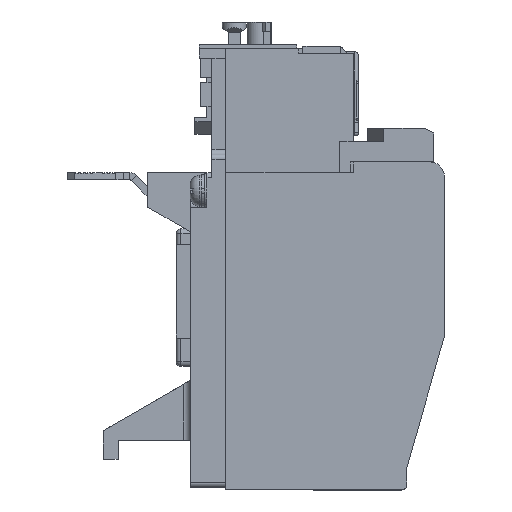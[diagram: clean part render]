
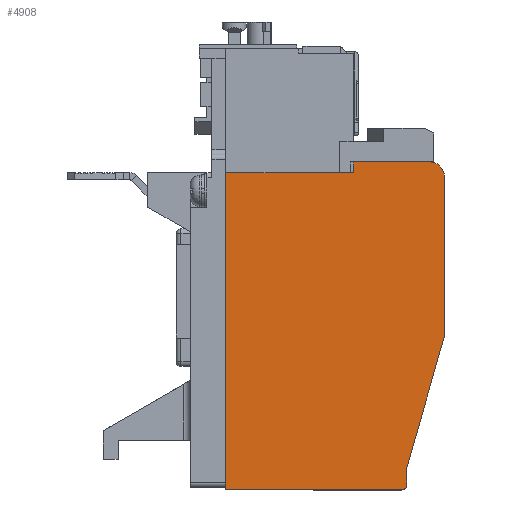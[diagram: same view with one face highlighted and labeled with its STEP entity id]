
A CAD part, left-side view. The second image highlights one B-rep face of the part: STEP entity #4908.
In plain terms, the highlighted planar face has unit normal (-1, 0, 0).
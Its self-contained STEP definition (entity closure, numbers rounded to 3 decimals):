
#41 = LINE ( 'NONE', #30707, #10060 ) ;
#351 = ORIENTED_EDGE ( 'NONE', *, *, #18182, .F. ) ;
#1346 = ORIENTED_EDGE ( 'NONE', *, *, #27717, .T. ) ;
#1465 = CARTESIAN_POINT ( 'NONE',  ( -27., -45.3, 65. ) ) ;
#2627 = CIRCLE ( 'NONE', #42251, 3. ) ;
#3472 = ORIENTED_EDGE ( 'NONE', *, *, #28368, .F. ) ;
#3630 = CARTESIAN_POINT ( 'NONE',  ( -27., -42.3, 65. ) ) ;
#4373 = CARTESIAN_POINT ( 'NONE',  ( -27., -45.3, 65. ) ) ;
#4800 = CARTESIAN_POINT ( 'NONE',  ( -27., -26.5, 65.8 ) ) ;
#4908 = ADVANCED_FACE ( 'NONE', ( #10611 ), #33754, .F. ) ;
#6282 = ORIENTED_EDGE ( 'NONE', *, *, #34430, .F. ) ;
#6656 = ORIENTED_EDGE ( 'NONE', *, *, #24674, .F. ) ;
#6831 = VERTEX_POINT ( 'NONE', #39699 ) ;
#7025 = DIRECTION ( 'NONE',  ( 0., 0., -1. ) ) ;
#7265 = AXIS2_PLACEMENT_3D ( 'NONE', #12891, #36513, #16312 ) ;
#7699 = LINE ( 'NONE', #12957, #24579 ) ;
#8130 = EDGE_CURVE ( 'NONE', #25490, #26749, #15121, .T. ) ;
#8542 = DIRECTION ( 'NONE',  ( 0., -1., 0. ) ) ;
#8628 = VERTEX_POINT ( 'NONE', #39769 ) ;
#9838 = VECTOR ( 'NONE', #42392, 1000. ) ;
#10060 = VECTOR ( 'NONE', #10480, 1000. ) ;
#10120 = CARTESIAN_POINT ( 'NONE',  ( -27., -42.3, 65. ) ) ;
#10480 = DIRECTION ( 'NONE',  ( 0., 1., 0. ) ) ;
#10611 = FACE_OUTER_BOUND ( 'NONE', #34814, .T. ) ;
#12891 = CARTESIAN_POINT ( 'NONE',  ( -27., -36.5, 1. ) ) ;
#12957 = CARTESIAN_POINT ( 'NONE',  ( -27., -37.5, 4.5 ) ) ;
#13033 = LINE ( 'NONE', #28975, #9838 ) ;
#13541 = DIRECTION ( 'NONE',  ( 0., 0., -1. ) ) ;
#14378 = CARTESIAN_POINT ( 'NONE',  ( -27., 0., 65.8 ) ) ;
#14779 = VECTOR ( 'NONE', #8542, 1000. ) ;
#15121 = LINE ( 'NONE', #16840, #38841 ) ;
#15329 = ORIENTED_EDGE ( 'NONE', *, *, #8130, .T. ) ;
#15343 = ORIENTED_EDGE ( 'NONE', *, *, #30721, .F. ) ;
#16005 = CARTESIAN_POINT ( 'NONE',  ( -27., -37.5, 1. ) ) ;
#16312 = DIRECTION ( 'NONE',  ( 0., 0., -1. ) ) ;
#16377 = DIRECTION ( 'NONE',  ( 0., 0., -1. ) ) ;
#16480 = CARTESIAN_POINT ( 'NONE',  ( -27., 0., 68. ) ) ;
#16671 = LINE ( 'NONE', #1465, #42513 ) ;
#16840 = CARTESIAN_POINT ( 'NONE',  ( -27., -26.5, 68. ) ) ;
#16909 = EDGE_CURVE ( 'NONE', #8628, #27260, #21039, .T. ) ;
#17735 = CARTESIAN_POINT ( 'NONE',  ( -27., -37.5, 4.5 ) ) ;
#18182 = EDGE_CURVE ( 'NONE', #6831, #8628, #13033, .T. ) ;
#21039 = LINE ( 'NONE', #16480, #38994 ) ;
#21103 = VECTOR ( 'NONE', #21106, 1000. ) ;
#21106 = DIRECTION ( 'NONE',  ( 0., 0.275, -0.961 ) ) ;
#22387 = VERTEX_POINT ( 'NONE', #43449 ) ;
#23422 = ORIENTED_EDGE ( 'NONE', *, *, #42284, .F. ) ;
#23666 = ORIENTED_EDGE ( 'NONE', *, *, #24529, .F. ) ;
#23735 = LINE ( 'NONE', #42218, #14779 ) ;
#24529 = EDGE_CURVE ( 'NONE', #22387, #38722, #31174, .T. ) ;
#24579 = VECTOR ( 'NONE', #16377, 1000. ) ;
#24674 = EDGE_CURVE ( 'NONE', #25490, #34767, #23735, .T. ) ;
#24797 = CARTESIAN_POINT ( 'NONE',  ( -27., -37.5, 4.5 ) ) ;
#25490 = VERTEX_POINT ( 'NONE', #26207 ) ;
#26207 = CARTESIAN_POINT ( 'NONE',  ( -27., -26.5, 68. ) ) ;
#26749 = VERTEX_POINT ( 'NONE', #4800 ) ;
#27246 = DIRECTION ( 'NONE',  ( 1., 0., 0. ) ) ;
#27260 = VERTEX_POINT ( 'NONE', #14378 ) ;
#27717 = EDGE_CURVE ( 'NONE', #26749, #27260, #41, .T. ) ;
#28368 = EDGE_CURVE ( 'NONE', #34767, #37530, #2627, .T. ) ;
#28463 = DIRECTION ( 'NONE',  ( 0., 0., -1. ) ) ;
#28975 = CARTESIAN_POINT ( 'NONE',  ( -27., 0., 0. ) ) ;
#30707 = CARTESIAN_POINT ( 'NONE',  ( -27., -26.5, 65.8 ) ) ;
#30721 = EDGE_CURVE ( 'NONE', #37530, #22387, #16671, .T. ) ;
#30761 = CIRCLE ( 'NONE', #7265, 1. ) ;
#31174 = LINE ( 'NONE', #17735, #21103 ) ;
#32721 = ORIENTED_EDGE ( 'NONE', *, *, #16909, .F. ) ;
#33736 = DIRECTION ( 'NONE',  ( 1., 0., 0. ) ) ;
#33754 = PLANE ( 'NONE',  #38589 ) ;
#34430 = EDGE_CURVE ( 'NONE', #38722, #35059, #7699, .T. ) ;
#34700 = CARTESIAN_POINT ( 'NONE',  ( -27., -42.3, 68. ) ) ;
#34767 = VERTEX_POINT ( 'NONE', #34700 ) ;
#34814 = EDGE_LOOP ( 'NONE', ( #15329, #1346, #32721, #351, #23422, #6282, #23666, #15343, #3472, #6656 ) ) ;
#35059 = VERTEX_POINT ( 'NONE', #16005 ) ;
#36513 = DIRECTION ( 'NONE',  ( 1., 0., 0. ) ) ;
#37001 = DIRECTION ( 'NONE',  ( 0., 0., -1. ) ) ;
#37530 = VERTEX_POINT ( 'NONE', #4373 ) ;
#38589 = AXIS2_PLACEMENT_3D ( 'NONE', #10120, #33736, #13541 ) ;
#38722 = VERTEX_POINT ( 'NONE', #24797 ) ;
#38841 = VECTOR ( 'NONE', #37001, 1000. ) ;
#38994 = VECTOR ( 'NONE', #40053, 1000. ) ;
#39699 = CARTESIAN_POINT ( 'NONE',  ( -27., -36.5, 0. ) ) ;
#39769 = CARTESIAN_POINT ( 'NONE',  ( -27., 0., 0. ) ) ;
#40053 = DIRECTION ( 'NONE',  ( 0., 0., 1. ) ) ;
#42218 = CARTESIAN_POINT ( 'NONE',  ( -27., 0., 68. ) ) ;
#42251 = AXIS2_PLACEMENT_3D ( 'NONE', #3630, #27246, #7025 ) ;
#42284 = EDGE_CURVE ( 'NONE', #35059, #6831, #30761, .T. ) ;
#42392 = DIRECTION ( 'NONE',  ( 0., 1., 0. ) ) ;
#42513 = VECTOR ( 'NONE', #28463, 1000. ) ;
#43449 = CARTESIAN_POINT ( 'NONE',  ( -27., -45.3, 31.762 ) ) ;
